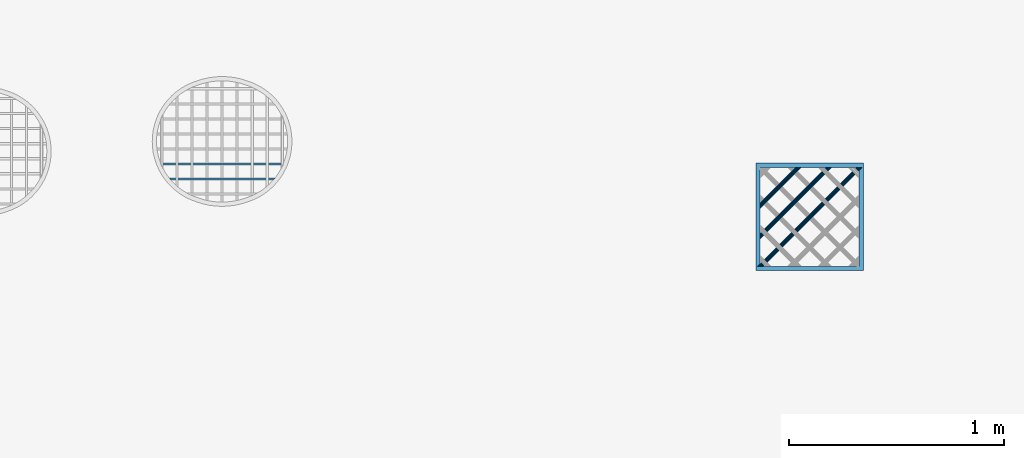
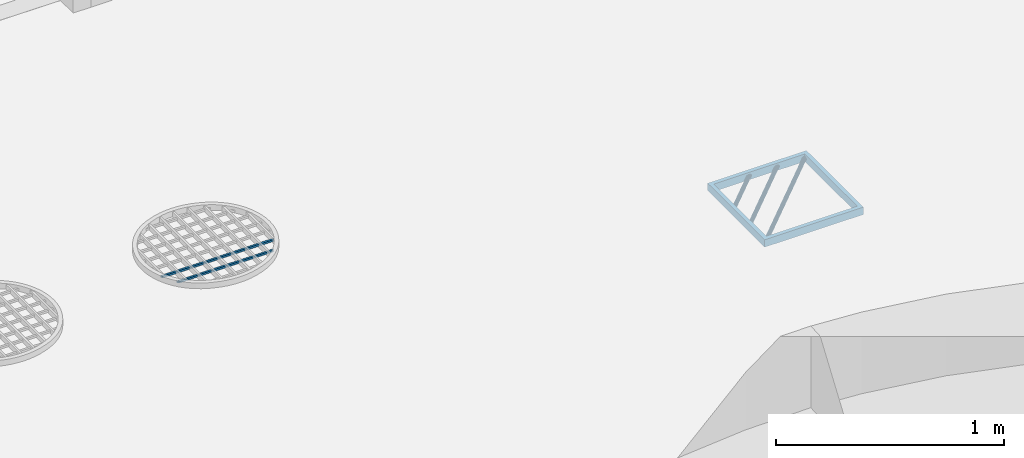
# One storey, part 38 of 133: 6 members, 2 elements without a shape of their own.
"""IFC2X3 building model written with IfcOpenShell, lengths in centimetres."""

from ifc_helpers import new_model, entity, si_unit, converted_unit, direction, frame, origin, origin_with_axes, place, context, subcontext, project, spatial, faceted_brep, material, type_object, element, aggregate, save


model = new_model("IFC2X3")

# Units and contexts
model_context = context("Model", 3, precision=0.0001, world=origin(), true_north=direction((0.225632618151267, 0.974212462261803, 0.0)))
body_context = subcontext(model_context, "Body", "Model", "MODEL_VIEW")
ifc_project = project(units=[si_unit("LENGTHUNIT", "METRE", prefix="CENTI"), si_unit("AREAUNIT", "SQUARE_METRE", prefix="CENTI"), si_unit("VOLUMEUNIT", "CUBIC_METRE", prefix="CENTI"), converted_unit("PLANEANGLEUNIT", "DEGREE", entity("IfcRatioMeasure", 0.0174532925), si_unit("PLANEANGLEUNIT", "RADIAN"), dimensions=[0, 0, 0, 0, 0, 0, 0])], contexts=[model_context])

# Site, building, storey
site_placement = place(None, origin_with_axes())
site = spatial("IfcSite", under=ifc_project, at=site_placement, Name="Default Site", CompositionType="ELEMENT")
building_placement = place(site_placement, origin_with_axes())
building = spatial("IfcBuilding", under=site, at=building_placement, Name="Default Building", CompositionType="ELEMENT")
storey_placement = place(building_placement, frame((0.0, 0.0, -291.400371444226), z_axis=(0.0, 0.0, 1.0), x_axis=(1.0, 0.0, 0.0)))
storey = spatial("IfcBuildingStorey", under=building, at=storey_placement, Name="Rez-de-Jardin", CompositionType="ELEMENT", Elevation=-291.400371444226)

# Assembly, members
building_element_proxy_type = type_object("IfcBuildingElementProxyType", Name="Type Object", PredefinedType="NOTDEFINED")
assembly_1_placement = place(storey_placement, frame((619.588486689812, -1210.73629178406, 0.999999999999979), z_axis=(0.0, -1.0, -9.43689570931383e-16), x_axis=(1.0, 0.0, 0.0)))
assembly_1 = element("IfcElementAssembly", 1, at=assembly_1_placement, inside=storey, type_object=building_element_proxy_type, Name="Panneau 294721", ObjectType="Precast panel", PredefinedType="USERDEFINED")
ifc_material_1 = material(Name="Acier")
member_1_placement = place(assembly_1_placement, frame((57.08988904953, 0.499999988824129, 47.1905797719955), z_axis=(0.770488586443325, 9.41418249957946e-22, 0.637453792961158), x_axis=(0.637453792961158, -7.2710204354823e-16, -0.770488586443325)))
member_1 = element("IfcMember", 2, at=member_1_placement, material=ifc_material_1, Name="4294966736", context=body_context, shape_type="Brep", body=[
    faceted_brep([(2.77192548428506e-13, 4.44089209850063e-14, -1.99840144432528e-13), (-1.29787652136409, 4.3454823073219e-14, 1.68043056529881e-06), (-1.29787652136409, -0.999999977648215, 1.68043056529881e-06), (2.77918963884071e-13, -0.999999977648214, -1.99840145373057e-13), (-31.3645108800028, -0.999999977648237, -37.9101950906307), (-31.6076115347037, -0.999999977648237, -36.635289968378), (-31.6076115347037, 2.14238345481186e-14, -36.635289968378), (-31.3645108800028, 2.15973072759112e-14, -37.9101950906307), (2.77918963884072e-13, -0.999999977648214, -1.99840144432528e-13), (-1.29787652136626, -0.999999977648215, -1.99840144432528e-13), (-31.6076110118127, -0.999999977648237, -36.6352898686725), (-1.29787652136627, 4.3454823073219e-14, -1.99840144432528e-13), (-31.6076110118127, 2.14238349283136e-14, -36.6352898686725), (2.77192548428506e-13, 4.43985117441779e-14, -1.99840144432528e-13), (-31.3645108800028, 2.15933474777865e-14, -37.9101950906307), (-31.6076110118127, 2.14165876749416e-14, -36.6352898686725), (2.77919371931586e-13, -0.999999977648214, -1.99840482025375e-13)], [[[0, 1, 2, 3]], [[4, 5, 6, 7]], [[8, 9, 10, 4]], [[9, 11, 12, 10]], [[11, 13, 14, 15]], [[0, 16, 4, 7]]]),
])
member_2_placement = place(assembly_1_placement, frame((61.0966205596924, 0.499999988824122, 40.190577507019), z_axis=(0.923966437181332, 1.7813730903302e-21, 0.382473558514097), x_axis=(0.382473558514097, -8.7193749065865e-16, -0.923966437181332)))
member_2 = element("IfcMember", 3, at=member_2_placement, material=ifc_material_1, Name="4294966735", context=body_context, shape_type="Brep", body=[
    faceted_brep([(1.66533453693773e-13, -5.64652491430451e-14, -1.55431223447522e-13), (-1.08229258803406, -5.74193470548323e-14, 2.21112955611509e-06), (-1.08229258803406, -0.999999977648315, 2.21112955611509e-06), (1.66533453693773e-13, -0.999999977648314, -1.55431223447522e-13), (-21.8837080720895, -0.999999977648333, -52.865907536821), (-22.6493527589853, -0.999999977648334, -52.1009613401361), (-22.6493527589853, -7.62410962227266e-14, -52.1009613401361), (-21.8837080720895, -7.55472073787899e-14, -52.865907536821), (-1.08229258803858, -0.999999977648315, -1.4432899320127e-13), (-22.649353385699, -0.999999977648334, -52.1009619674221), (-1.08229258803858, -0.999999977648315, -1.4432899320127e-13), (-1.08229258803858, -5.74193470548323e-14, -1.43997250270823e-13), (-22.649353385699, -7.62410967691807e-14, -52.1009619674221), (-1.08229258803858, -5.74193470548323e-14, -1.4432899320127e-13), (1.66533453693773e-13, -5.64756555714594e-14, -1.55431223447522e-13), (-21.8837080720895, -7.55567869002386e-14, -52.865907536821), (-22.649353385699, -7.62243831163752e-14, -52.1009619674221), (1.67277839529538e-13, -0.999999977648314, -1.55739360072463e-13)], [[[0, 1, 2, 3]], [[4, 5, 6, 7]], [[3, 8, 9, 4]], [[10, 11, 12, 9]], [[13, 14, 15, 16]], [[0, 17, 4, 7]]]),
])
aggregate(assembly_1, [member_1, member_2])

assembly_2_placement = place(storey_placement, frame((900.320251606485, -1301.00060342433, -48.0), z_axis=(0.0, 1.0, -2.38697950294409e-15), x_axis=(1.0, 0.0, 0.0)))
assembly_2 = element("IfcElementAssembly", 4, at=assembly_2_placement, inside=storey, type_object=building_element_proxy_type, Name="Panneau 294718", ObjectType="Precast panel", PredefinedType="USERDEFINED")
ifc_material_2 = material(Name="Aluminium satiné")
member_3_placement = place(assembly_2_placement, frame((1.99999995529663, 1.99999995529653, 47.9999989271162), z_axis=(0.999999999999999, 1.9803584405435e-31, -8.29650375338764e-17), x_axis=(0.0, 1.0, 2.38697950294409e-15)))
member_3 = element("IfcMember", 5, at=member_3_placement, material=ifc_material_2, Name="4294966687", context=body_context, shape_type="Brep", body=[
    faceted_brep([(-1.87350135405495e-14, -5.55111512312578e-15, -3.81639164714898e-15), (-3.99999991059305, 5.55111512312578e-15, -3.81639164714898e-15), (-3.99999991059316, -45.9999989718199, -3.81639164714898e-15), (-1.28369537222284e-13, -45.9999989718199, -3.81639164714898e-15), (-3.99999991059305, 2.00000107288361, -1.99999995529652), (-3.99999991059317, -47.9999989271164, -1.99999995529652), (-3.99999991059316, -45.9999989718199, 0.0), (-1.38777878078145e-14, 2.0000010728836, -1.99999995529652), (-1.33226762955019e-13, -47.9999989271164, -1.99999995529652), (-1.86517493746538e-14, -5.55111512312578e-15, -3.81639164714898e-15), (-1.28452804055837e-13, -45.9999989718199, -1.6489817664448e-47), (-1.28369537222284e-13, -45.9999989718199, 0.0), (-3.99999991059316, -45.9999989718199, 45.9999989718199), (-1.28369537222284e-13, -45.9999989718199, 45.9999989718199), (-3.99999991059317, -47.9999989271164, 48.0000000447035), (-1.33226762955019e-13, -47.9999989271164, 48.0000000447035), (-1.28452804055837e-13, -45.9999989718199, -1.64898176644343e-47), (-1.28452804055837e-13, -45.9999989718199, 45.9999989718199), (-3.99999991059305, 1.11022302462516e-14, 45.9999989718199), (-1.87350135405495e-14, 0.0, 45.9999989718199), (-3.99999991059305, 2.00000107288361, 48.0000000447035), (-1.38777878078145e-14, 2.0000010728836, 48.0000000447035), (-1.86517493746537e-14, -1.98749857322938e-31, 45.9999989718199), (-1.38777878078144e-14, 2.0000010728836, 48.0000000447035), (-3.99999991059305, 9.54791779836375e-15, 45.9999989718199), (-3.99999991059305, 5.73152615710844e-15, -3.81639164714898e-15), (-1.87350135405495e-14, -3.81639164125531e-15, -3.81639164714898e-15), (-1.38777878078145e-14, 2.00000107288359, -1.99999995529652), (-3.99999991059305, 2.0000010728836, -1.99999995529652), (-1.86517493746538e-14, -1.9874985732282e-31, 45.9999989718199), (-1.38777878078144e-14, 2.0000010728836, -1.99999995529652)], [[[0, 1, 2, 3]], [[1, 4, 5, 6]], [[4, 7, 8, 5]], [[7, 9, 10, 8]], [[11, 6, 12, 13]], [[6, 5, 14, 12]], [[5, 8, 15, 14]], [[8, 16, 17, 15]], [[13, 12, 18, 19]], [[12, 14, 20, 18]], [[14, 15, 21, 20]], [[15, 17, 22, 23]], [[19, 24, 25, 26]], [[18, 20, 4, 1]], [[20, 21, 27, 28]], [[21, 29, 9, 30]]]),
])
member_4_placement = place(assembly_2_placement, frame((21.0446551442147, 0.342020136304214, 47.9999989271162), z_axis=(1.16937634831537e-15, -1.43218776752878e-15, 1.0), x_axis=(0.632455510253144, -0.774596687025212, -1.84894641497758e-15)))
member_4 = element("IfcMember", 6, at=member_4_placement, material=ifc_material_2, Name="4294966685", context=body_context, shape_type="Brep", body=[
    faceted_brep([(3.88578058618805e-14, 7.49400541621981e-14, 4.44089209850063e-14), (-0.388289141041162, 7.49400541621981e-14, 4.36909951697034e-14), (-0.799165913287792, -0.150249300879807, 4.29313060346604e-14), (-1.1830719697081, -0.432624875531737, 4.22214843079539e-14), (-1.49370326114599, -0.81306897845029, 4.164714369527e-14), (-1.69359339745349, -1.24569483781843, 4.12775575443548e-14), (-1.75863166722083, -1.67832007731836, 4.11573052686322e-14), (-1.68097381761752, -2.05876418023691, 4.13008904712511e-14), (-1.46998625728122, -2.34113956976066, 4.16909951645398e-14), (-1.15111848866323, -2.49138921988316, 4.22805645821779e-14), (-0.762829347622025, -2.49138921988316, 4.29984903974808e-14), (-0.351952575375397, -2.34113991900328, 4.37581795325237e-14), (0.0319544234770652, -2.05876319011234, 4.44680030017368e-14), (0.342585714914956, -1.67831908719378, 4.50423436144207e-14), (0.542474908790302, -1.24569438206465, 4.54119280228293e-14), (0.607513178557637, -0.813069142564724, 4.5532180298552e-14), (0.529855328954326, -0.43262503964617, 4.5388595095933e-14), (0.318867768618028, -0.150249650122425, 4.49984904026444e-14), (-11.7799694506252, -14.9682393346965, -19.129940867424), (-11.515041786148, -15.1845518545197, -19.0446525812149), (-11.2820682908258, -15.3747739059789, -18.799078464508), (-11.1091490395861, -15.515961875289, -18.4228330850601), (-11.0171406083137, -15.5910864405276, -17.9613023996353), (-11.0171406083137, -15.5910864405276, -17.4701511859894), (-11.1091490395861, -15.515961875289, -17.0086205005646), (-11.2820682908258, -15.3747739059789, -16.6323781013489), (-11.515041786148, -15.1845518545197, -16.3868010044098), (-11.7799694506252, -14.9682393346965, -16.3015127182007), (-12.0448971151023, -14.7519268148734, -16.3868010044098), (-12.2778706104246, -14.5617047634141, -16.6323781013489), (-12.4507898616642, -14.4205167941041, -17.0086205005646), (-12.5427982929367, -14.3453922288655, -17.4701511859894), (-12.5427982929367, -14.3453922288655, -17.9613023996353), (-12.4507898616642, -14.4205167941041, -18.4228330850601), (-12.2778706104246, -14.5617047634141, -18.799078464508), (-12.0448971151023, -14.7519268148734, -19.0446525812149), (0.318867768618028, -0.150249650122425, 4.44089209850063e-14), (0.52985504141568, -0.432625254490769, 3.48273360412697e-07), (-11.5150410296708, -15.1845512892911, -19.0446534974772), (-11.7799690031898, -14.9682390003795, -19.1299414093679), (0.529855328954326, -0.43262503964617, 4.44089209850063e-14), (0.607513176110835, -0.813069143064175, 1.93441075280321e-09), (-11.2820677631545, -15.3747737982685, -18.7990788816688), (-11.5150405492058, -15.1845516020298, -19.0446535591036), (0.607513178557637, -0.813069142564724, 4.44089209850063e-14), (0.542475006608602, -1.24569439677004, -5.04749359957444e-08), (-11.1091478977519, -15.5159620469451, -18.4228336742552), (-11.2820678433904, -15.3747739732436, -18.7990786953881), (0.542474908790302, -1.24569438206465, 4.44089209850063e-14), (0.342585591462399, -1.67831903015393, 3.3895409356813e-08), (-11.017140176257, -15.5910866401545, -17.9613025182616), (-11.1091484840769, -15.5159621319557, -18.4228332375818), (0.342585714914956, -1.67831908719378, 4.44089209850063e-14), (0.0319544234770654, -2.05876319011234, 4.44089209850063e-14), (0.0319544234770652, -2.05876319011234, 4.44089209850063e-14), (-0.351952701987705, -2.34113974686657, -5.32598250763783e-08), (-11.1091493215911, -15.515961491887, -17.0086206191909), (-11.0171409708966, -15.5910859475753, -17.470151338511), (-0.351952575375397, -2.34113991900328, 4.44089209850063e-14), (-0.762829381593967, -2.49138912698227, -5.04749366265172e-08), (-11.2820682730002, -15.3747739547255, -16.6323780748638), (-11.1091491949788, -15.5159614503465, -17.0086207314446), (-0.762829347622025, -2.49138921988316, 4.44089209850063e-14), (-1.15111848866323, -2.49138922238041, 1.93441027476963e-09), (-11.515041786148, -15.1845513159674, -16.3868014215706), (-11.2820682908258, -15.3747740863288, -16.6323779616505), (-1.15111848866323, -2.49138921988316, 4.44089209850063e-14), (-1.46998641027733, -2.34113989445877, 3.48273360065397e-07), (-11.7799690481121, -14.9682384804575, -16.301513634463), (-11.5150415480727, -15.1845513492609, -16.3868015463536), (-1.46998625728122, -2.34113956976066, 4.44089209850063e-14), (-1.68097353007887, -2.05876396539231, -3.48273271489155e-07), (-12.0448963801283, -14.7519262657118, -16.3868018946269), (-11.7799684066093, -14.9682385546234, -16.3015139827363), (-1.68097381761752, -2.05876418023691, 4.44089209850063e-14), (-1.75863166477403, -1.67832007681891, -1.93432188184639e-09), (-12.2778707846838, -14.5617047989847, -16.6323779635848), (-12.0448965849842, -14.7519267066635, -16.3868014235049), (-1.75863166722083, -1.67832007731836, 4.44089209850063e-14), (-1.69359349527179, -1.24569482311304, 5.04750253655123e-08), (-12.4507895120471, -14.4205168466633, -17.0086206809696), (-12.2778707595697, -14.5617047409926, -16.6323780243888), (-1.69359339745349, -1.24569483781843, 4.44089209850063e-14), (-1.4937034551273, -0.813068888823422, 5.32599139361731e-08), (-12.5427979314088, -14.3453923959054, -17.4701512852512), (-12.4507896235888, -14.4205169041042, -17.008620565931), (-1.49370326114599, -0.81306897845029, 4.44089209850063e-14), (-1.1830719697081, -0.432624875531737, 4.44089209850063e-14), (-0.799165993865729, -0.150249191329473, -3.38953208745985e-08), (-12.4507903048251, -14.4205161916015, -18.4228332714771), (-12.5427986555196, -14.3453917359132, -17.961302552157), (-0.799165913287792, -0.150249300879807, 4.44089209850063e-14), (-0.388289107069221, -9.29008158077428e-08, 5.04750251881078e-08), (-12.2778707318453, -14.5617044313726, -18.7990786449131), (-12.4507902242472, -14.4205158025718, -18.4228336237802), (-0.388289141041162, 7.49400541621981e-14, 4.44089209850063e-14), (3.88321083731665e-14, 2.49733039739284e-09, -1.93432137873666e-09), (-12.0448971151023, -14.7519255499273, -19.044653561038), (-12.2778706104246, -14.5617042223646, -18.7990788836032), (0.318867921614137, -0.15024932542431, -3.482732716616e-07), (-11.7799690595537, -14.9682385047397, -19.1299417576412), (-12.0448965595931, -14.7519256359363, -19.0446538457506)], [[[0, 1, 2, 3, 4, 5, 6, 7, 8, 9, 10, 11, 12, 13, 14, 15, 16, 17]], [[18, 19, 20, 21, 22, 23, 24, 25, 26, 27, 28, 29, 30, 31, 32, 33, 34, 35]], [[36, 37, 38, 39]], [[40, 41, 42, 43]], [[44, 45, 46, 47]], [[48, 49, 50, 51]], [[52, 53, 23, 22]], [[54, 55, 56, 57]], [[58, 59, 60, 61]], [[62, 63, 64, 65]], [[66, 67, 68, 69]], [[70, 71, 72, 73]], [[74, 75, 76, 77]], [[78, 79, 80, 81]], [[82, 83, 84, 85]], [[86, 87, 32, 31]], [[87, 88, 89, 90]], [[91, 92, 93, 94]], [[95, 96, 97, 98]], [[0, 99, 100, 101]]]),
])
member_5_placement = place(assembly_2_placement, frame((35.186791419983, 0.342020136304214, 47.9999989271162), z_axis=(1.16937776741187e-15, -1.43218081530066e-15, 1.0), x_axis=(0.632457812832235, -0.774594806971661, -1.84894192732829e-15)))
member_5 = element("IfcMember", 7, at=member_5_placement, material=ifc_material_2, Name="4294966684", context=body_context, shape_type="Brep", body=[
    faceted_brep([(7.49400541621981e-14, 1.66533453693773e-14, -1.16573417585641e-13), (-0.38829008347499, 1.66533453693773e-14, -1.17291343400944e-13), (-0.799166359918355, -0.150246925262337, -1.18051029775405e-13), (-1.18307325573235, -0.432621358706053, -1.18760851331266e-13), (-1.49370567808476, -0.813064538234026, -1.19335192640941e-13), (-1.69359804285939, -1.24569095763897, -1.19704782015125e-13), (-1.75863665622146, -1.6783148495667, -1.19825034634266e-13), (-1.68098087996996, -2.05876033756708, -1.19681453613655e-13), (-1.46999321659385, -2.34113520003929, -1.1929134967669e-13), (-1.15112683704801, -2.49138695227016, -1.18701784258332e-13), (-0.762836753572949, -2.49138695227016, -1.1798385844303e-13), (-0.351960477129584, -2.34114002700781, -1.17224172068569e-13), (0.0319483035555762, -2.05876328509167, -1.16514347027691e-13), (0.342580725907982, -1.6783201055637, -1.15940005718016e-13), (0.542471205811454, -1.24569599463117, -1.15570419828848e-13), (0.607509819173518, -0.813072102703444, -1.15450167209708e-13), (0.529854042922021, -0.432626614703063, -1.15593748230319e-13), (0.318866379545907, -0.150251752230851, -1.15983852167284e-13), (-20.724318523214, -25.9226296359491, -33.2720771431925), (-20.459391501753, -26.1389429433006, -33.1867888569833), (-20.2264185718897, -26.3291656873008, -32.9412132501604), (-20.0534997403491, -26.4703541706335, -32.5649693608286), (-19.9614915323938, -26.5454790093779, -32.1034386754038), (-19.9614915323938, -26.5454790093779, -31.6122874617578), (-20.0534997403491, -26.4703541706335, -31.150756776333), (-20.2264185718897, -26.3291656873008, -30.7745128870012), (-20.459391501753, -26.1389429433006, -30.5289372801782), (-20.724318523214, -25.9226296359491, -30.4436504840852), (-20.9892455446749, -25.7063163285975, -30.5289372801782), (-21.2222184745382, -25.5160935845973, -30.7745128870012), (-21.3951373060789, -25.3749051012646, -31.150756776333), (-21.4871455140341, -25.2997802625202, -31.6122874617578), (-21.4871455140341, -25.2997802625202, -32.1034386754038), (-21.3951373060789, -25.3749051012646, -32.5649693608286), (-21.2222184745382, -25.5160935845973, -32.9412132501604), (-20.9892455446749, -25.7063163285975, -33.1867888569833), (0.318866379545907, -0.150251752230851, -1.16573417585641e-13), (0.529853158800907, -0.432627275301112, 1.07086500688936e-06), (-20.4593913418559, -26.1389428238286, -33.1867890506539), (-20.7243186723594, -25.9226297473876, -33.2720769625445), (0.529854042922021, -0.432626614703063, -1.16573417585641e-13), (0.607510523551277, -0.813071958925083, -5.56859304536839e-07), (-20.2264173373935, -26.3291654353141, -32.9412142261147), (-20.45939026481, -26.1389426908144, -33.1867898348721), (0.607509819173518, -0.813072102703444, -1.16573417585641e-13), (0.542470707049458, -1.24569591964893, 2.57364949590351e-07), (-20.0534991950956, -26.4703542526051, -32.5649696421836), (-20.2264181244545, -26.3291657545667, -32.9412134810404), (0.542471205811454, -1.24569599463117, -1.16573417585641e-13), (0.342580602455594, -1.67832004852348, 3.38952482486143e-08), (-19.9614911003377, -26.5454792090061, -32.1034387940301), (-20.0534991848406, -26.4703544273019, -32.5649695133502), (0.342580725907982, -1.6783201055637, -1.16573417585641e-13), (0.0319483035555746, -2.05876328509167, -1.16573417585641e-13), (0.0319483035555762, -2.05876328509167, -1.16573417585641e-13), (-0.351960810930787, -2.34113957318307, -1.40415220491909e-07), (-20.0535000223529, -26.4703537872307, -31.1507568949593), (-19.9614918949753, -26.5454785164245, -31.6122876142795), (-0.351960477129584, -2.34114002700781, -1.16573417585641e-13), (-0.762836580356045, -2.49138742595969, 2.57364950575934e-07), (-20.2264185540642, -26.3291657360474, -30.7745128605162), (-20.0534996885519, -26.4703543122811, -31.150756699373), (-0.762836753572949, -2.49138695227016, -1.16573417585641e-13), (-1.15112683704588, -2.49138623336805, -5.56859306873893e-07), (-20.4593915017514, -26.1389424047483, -30.528937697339), (-20.2264185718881, -26.3291651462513, -30.7745133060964), (-1.15112683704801, -2.49138695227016, -1.16573417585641e-13), (-1.46999368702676, -2.34113619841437, 1.07086500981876e-06), (-20.72431875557, -25.9226301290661, -30.443649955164), (-20.459391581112, -26.13894311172, -30.5289370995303), (-1.46999321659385, -2.34113520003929, -1.16573417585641e-13), (-1.68097999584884, -2.05875967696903, -1.0708652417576e-06), (-20.9892448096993, -25.706315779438, -30.5289381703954), (-20.7243180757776, -25.9226293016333, -30.4436510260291), (-1.68098087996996, -2.05876033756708, -1.16573417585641e-13), (-1.75863736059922, -1.67831499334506, 5.56859071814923e-07), (-21.2222186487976, -25.5160936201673, -30.7745127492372), (-20.9892457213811, -25.706316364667, -30.5289371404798), (-1.75863665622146, -1.6783148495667, -1.16573417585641e-13), (-1.6935975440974, -1.24569103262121, -2.57365182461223e-07), (-21.3951369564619, -25.3749051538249, -31.1507569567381), (-21.222218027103, -25.5160936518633, -30.7745131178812), (-1.69359804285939, -1.24569095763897, -1.16573417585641e-13), (-1.49370618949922, -0.813064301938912, 1.40414987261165e-07), (-21.4871454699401, -25.2997802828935, -31.6122874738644), (-21.3951373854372, -25.3749050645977, -31.1507567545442), (-1.49370567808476, -0.813064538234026, -1.16573417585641e-13), (-1.18307325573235, -0.432621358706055, -1.16573417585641e-13), (-1.18307325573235, -0.432621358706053, -1.16573417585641e-13), (-0.799166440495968, -0.150246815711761, -3.38954827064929e-08), (-21.3951377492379, -25.3749044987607, -32.5649695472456), (-21.4871458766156, -25.2997797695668, -32.1034388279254), (-0.799166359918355, -0.150246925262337, -1.16573417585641e-13), (-0.388290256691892, 4.73689543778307e-07, -2.57365181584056e-07), (-21.2222188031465, -25.5160926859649, -32.9412137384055), (-21.3951376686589, -25.3749041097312, -32.5649698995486), (-0.38829008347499, 1.66533453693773e-14, -1.16573417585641e-13), (-2.05468528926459e-12, -7.1890209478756e-07, 5.56859072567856e-07), (-20.9892455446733, -25.7063157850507, -33.1867892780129), (-21.2222184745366, -25.5160930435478, -32.9412136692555), (0.318866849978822, -0.150250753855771, -1.07086524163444e-06), (-20.72431813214, -25.9226288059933, -33.2720780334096), (-20.9892449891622, -25.706315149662, -33.186790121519)], [[[0, 1, 2, 3, 4, 5, 6, 7, 8, 9, 10, 11, 12, 13, 14, 15, 16, 17]], [[18, 19, 20, 21, 22, 23, 24, 25, 26, 27, 28, 29, 30, 31, 32, 33, 34, 35]], [[36, 37, 38, 39]], [[40, 41, 42, 43]], [[44, 45, 46, 47]], [[48, 49, 50, 51]], [[52, 53, 23, 22]], [[54, 55, 56, 57]], [[58, 59, 60, 61]], [[62, 63, 64, 65]], [[66, 67, 68, 69]], [[70, 71, 72, 73]], [[74, 75, 76, 77]], [[78, 79, 80, 81]], [[82, 83, 84, 85]], [[86, 87, 32, 31]], [[88, 89, 90, 91]], [[92, 93, 94, 95]], [[96, 97, 98, 99]], [[0, 100, 101, 102]]]),
])
member_6_placement = place(assembly_2_placement, frame((49.3289262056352, 0.342020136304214, 47.9999989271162), z_axis=(1.16937776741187e-15, -1.43218081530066e-15, 1.0), x_axis=(0.632457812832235, -0.774594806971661, -1.84894192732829e-15)))
member_6 = element("IfcMember", 8, at=member_6_placement, material=ifc_material_2, Name="4294966683", context=body_context, shape_type="Brep", body=[
    faceted_brep([(7.21644966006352e-14, 9.43689570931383e-14, -9.99200722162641e-14), (-0.38829008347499, 8.88178419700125e-14, -1.00637998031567e-13), (-0.799166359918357, -0.15024692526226, -1.01397684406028e-13), (-1.18307325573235, -0.432621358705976, -1.02107505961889e-13), (-1.49370567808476, -0.813064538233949, -1.02681847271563e-13), (-1.69359615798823, -1.24568864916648, -1.03051433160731e-13), (-1.75863665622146, -1.67831484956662, -1.03171689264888e-13), (-1.6809789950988, -2.05875802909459, -1.03028104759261e-13), (-1.46999321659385, -2.34113520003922, -1.02638004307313e-13), (-1.15112495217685, -2.49138464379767, -1.02048435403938e-13), (-0.762836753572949, -2.49138695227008, -1.01330513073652e-13), (-0.351958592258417, -2.34113771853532, -1.00570823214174e-13), (0.031948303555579, -2.0587632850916, -9.98610016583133e-14), (0.342580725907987, -1.67832010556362, -9.92866603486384e-14), (0.542471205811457, -1.2456959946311, -9.89170744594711e-14), (0.607509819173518, -0.813072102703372, -9.87968218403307e-14), (0.529854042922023, -0.432626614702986, -9.89404028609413e-14), (0.318868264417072, -0.15024944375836, -9.93305033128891e-14), (-28.7741916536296, -35.7816112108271, -45.99999897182), (-28.5632054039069, -36.0639878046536, -45.99999897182), (-28.4855486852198, -36.4444321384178, -45.99999897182), (-28.550588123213, -36.8770570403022, -45.99999897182), (-28.7504789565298, -37.3096815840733, -45.99999897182), (-29.0611113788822, -37.6901247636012, -45.99999897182), (-29.4450185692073, -37.9724995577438, -45.99999897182), (-29.8558956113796, -38.122747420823, -45.99999897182), (-30.2441847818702, -38.1227463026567, -45.99999897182), (-30.5630525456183, -37.9724962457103, -45.99999897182), (-30.7740388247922, -37.6901196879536, -45.99999897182), (-30.8516955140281, -37.3096753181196, -45.99999897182), (-30.7866561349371, -36.8770504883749, -45.99999897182), (-30.5867653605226, -36.4444260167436, -45.99999897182), (-30.2761329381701, -36.0639828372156, -45.99999897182), (-29.8922256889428, -35.7816079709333, -45.99999897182), (-29.4813485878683, -35.6313600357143, -45.99999897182), (-29.0930594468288, -35.6313611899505, -45.99999897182), (0.318868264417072, -0.15024944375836, -9.99200722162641e-14), (0.529854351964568, -0.432626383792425, -3.743185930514e-07), (-28.563204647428, -36.0639872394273, -45.9999998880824), (-28.7741909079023, -35.7816106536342, -45.9999998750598), (0.529854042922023, -0.432626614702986, -9.99200722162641e-14), (0.607510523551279, -0.813071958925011, -5.56859289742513e-07), (-28.4855481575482, -36.4444320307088, -45.9999993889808), (-28.5632048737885, -36.0639876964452, -45.9999993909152), (0.607509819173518, -0.813072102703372, -9.99200722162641e-14), (0.542470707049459, -1.24569591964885, 2.57364967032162e-07), (-28.5505882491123, -36.8770570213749, -45.999998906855), (-28.4855488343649, -36.4444321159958, -45.99999889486), (0.542471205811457, -1.2456959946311, -9.99200722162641e-14), (0.342580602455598, -1.6783200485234, 3.38952655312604e-08), (-28.7504787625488, -37.3096816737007, -45.9999990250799), (-28.5505879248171, -36.8770571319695, -45.9999990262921), (0.342580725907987, -1.67832010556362, -9.99200722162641e-14), (0.0319483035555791, -2.0587632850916, -9.99200722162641e-14), (-29.0611113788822, -37.6901247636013, -45.99999897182), (0.031948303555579, -2.0587632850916, -9.99200722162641e-14), (-0.351958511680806, -2.34113782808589, 3.38952648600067e-08), (-29.4450187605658, -37.9724992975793, -45.9999990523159), (-29.0611115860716, -37.6901244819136, -45.9999990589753), (-0.351958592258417, -2.34113771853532, -9.99200722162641e-14), (-0.76283699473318, -2.49138629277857, -3.58315126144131e-07), (-29.8558958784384, -38.1227466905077, -45.9999993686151), (-29.4450188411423, -37.9724988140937, -45.9999993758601), (-0.762836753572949, -2.49138695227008, -9.99200722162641e-14), (-1.15112495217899, -2.49138536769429, 5.60727819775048e-07), (-30.2441847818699, -38.1227461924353, -45.9999990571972), (-29.8558956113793, -38.1227473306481, -45.9999990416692), (-1.15112495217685, -2.49138464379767, -9.99200722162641e-14), (-1.46999305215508, -2.34113485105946, -3.743185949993e-07), (-30.5630521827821, -37.9724954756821, -45.9999997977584), (-30.244184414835, -38.1227455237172, -45.9999998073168), (-1.46999321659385, -2.34113520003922, -9.99200722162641e-14), (-1.68097930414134, -2.05875826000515, 3.74318394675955e-07), (-30.774038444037, -37.6901194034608, -45.9999994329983), (-30.5630521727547, -37.9724959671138, -45.9999994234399), (-1.6809789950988, -2.05875802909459, -9.99200722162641e-14), (-1.75863594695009, -1.67831470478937, -5.60728020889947e-07), (-30.8516947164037, -37.3096751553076, -45.9999996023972), (-30.7740380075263, -37.6901195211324, -45.9999996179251), (-1.75863665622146, -1.67831484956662, -9.99200722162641e-14), (-1.69359685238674, -1.24568854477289, 3.58314928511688e-07), (-30.7866560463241, -36.8770505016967, -45.9999990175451), (-30.8516954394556, -37.3096753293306, -45.9999990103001), (-1.69359615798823, -1.24568864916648, -9.99200722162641e-14), (-1.49370555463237, -0.813064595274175, -3.38954658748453e-08), (-30.5867649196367, -36.4444262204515, -45.9999990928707), (-30.7866557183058, -36.8770506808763, -45.9999990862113), (-1.49370567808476, -0.813064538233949, -9.99200722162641e-14), (-1.18307325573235, -0.432621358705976, -9.99200722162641e-14), (-30.5867653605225, -36.4444260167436, -45.9999989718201), (-0.79916644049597, -0.150246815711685, -3.38954656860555e-08), (-29.8922258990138, -35.781607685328, -45.9999990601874), (-30.2761331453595, -36.063982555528, -45.9999990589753), (-0.799166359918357, -0.15024692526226, -9.99200722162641e-14), (-0.388290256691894, 4.73689620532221e-07, -2.57365167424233e-07), (-29.4813487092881, -35.6313597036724, -45.9999991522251), (-29.8922258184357, -35.7816076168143, -45.9999991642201), (-0.38829008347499, 8.88178419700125e-14, -9.99200722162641e-14), (-2.05746085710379e-12, -7.1890202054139e-07, 5.5685909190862e-07), (-29.0930594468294, -35.6313613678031, -45.999998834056), (-29.4813485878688, -35.6313602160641, -45.9999988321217), (0.318868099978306, -0.150249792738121, 3.74318392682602e-07), (-28.7741914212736, -35.78161071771, -45.9999995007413), (-29.0930592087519, -35.6313606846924, -45.9999995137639)], [[[0, 1, 2, 3, 4, 5, 6, 7, 8, 9, 10, 11, 12, 13, 14, 15, 16, 17]], [[18, 19, 20, 21, 22, 23, 24, 25, 26, 27, 28, 29, 30, 31, 32, 33, 34, 35]], [[36, 37, 38, 39]], [[40, 41, 42, 43]], [[44, 45, 46, 47]], [[48, 49, 50, 51]], [[52, 53, 54, 22]], [[55, 56, 57, 58]], [[59, 60, 61, 62]], [[63, 64, 65, 66]], [[67, 68, 69, 70]], [[71, 72, 73, 74]], [[75, 76, 77, 78]], [[79, 80, 81, 82]], [[83, 84, 85, 86]], [[87, 88, 32, 89]], [[88, 90, 91, 92]], [[93, 94, 95, 96]], [[97, 98, 99, 100]], [[0, 101, 102, 103]]]),
])
aggregate(assembly_2, [member_3, member_4, member_5, member_6])

save(model, "model.ifc")
